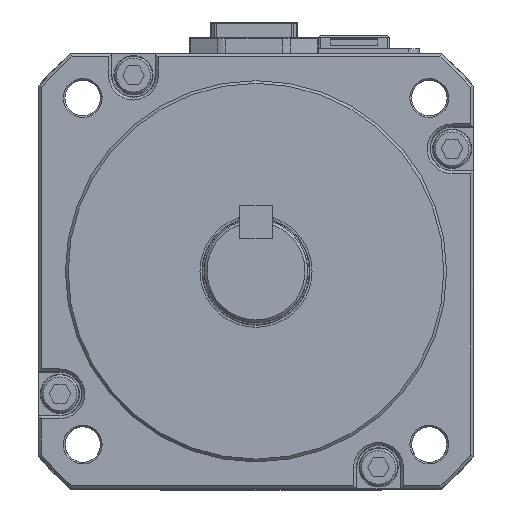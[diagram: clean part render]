
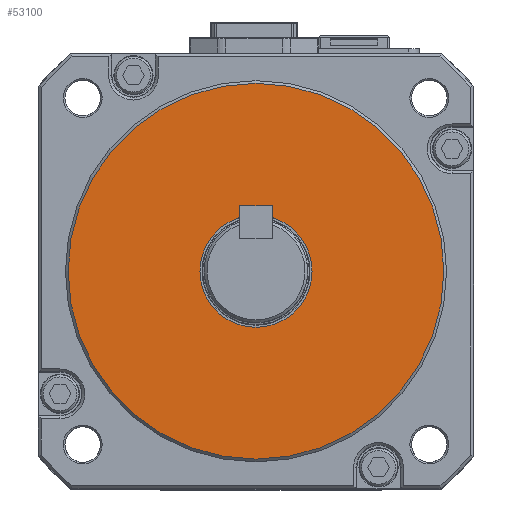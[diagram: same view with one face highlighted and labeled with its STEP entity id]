
A CAD part, top view. The second image highlights one B-rep face of the part: STEP entity #53100.
In plain terms, the highlighted planar face has unit normal (0, 0, 1).
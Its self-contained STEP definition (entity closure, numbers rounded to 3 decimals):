
#1061 = CIRCLE ( 'NONE', #4185, 10.3 ) ;
#4185 = AXIS2_PLACEMENT_3D ( 'NONE', #19811, #39665, #8858 ) ;
#8847 = FACE_OUTER_BOUND ( 'NONE', #34688, .T. ) ;
#8858 = DIRECTION ( 'NONE',  ( 1., 0., 0. ) ) ;
#11042 = ORIENTED_EDGE ( 'NONE', *, *, #53074, .T. ) ;
#13329 = FACE_BOUND ( 'NONE', #14321, .T. ) ;
#13960 = CARTESIAN_POINT ( 'NONE',  ( 0., 0., 13. ) ) ;
#14144 = CARTESIAN_POINT ( 'NONE',  ( 34.5, 0., 13. ) ) ;
#14321 = EDGE_LOOP ( 'NONE', ( #15122 ) ) ;
#15122 = ORIENTED_EDGE ( 'NONE', *, *, #36835, .F. ) ;
#19811 = CARTESIAN_POINT ( 'NONE',  ( 0., 0., 13. ) ) ;
#26654 = AXIS2_PLACEMENT_3D ( 'NONE', #13960, #38048, #28289 ) ;
#28289 = DIRECTION ( 'NONE',  ( 1., 0., 0. ) ) ;
#34688 = EDGE_LOOP ( 'NONE', ( #11042 ) ) ;
#34931 = AXIS2_PLACEMENT_3D ( 'NONE', #46526, #47782, #41646 ) ;
#36835 = EDGE_CURVE ( 'NONE', #60319, #60319, #1061, .T. ) ;
#38048 = DIRECTION ( 'NONE',  ( 0., 0., 1. ) ) ;
#38060 = CIRCLE ( 'NONE', #34931, 34.5 ) ;
#39665 = DIRECTION ( 'NONE',  ( 0., 0., 1. ) ) ;
#41646 = DIRECTION ( 'NONE',  ( 1., 0., 0. ) ) ;
#44186 = PLANE ( 'NONE',  #26654 ) ;
#46526 = CARTESIAN_POINT ( 'NONE',  ( 0., 0., 13. ) ) ;
#47782 = DIRECTION ( 'NONE',  ( 0., 0., 1. ) ) ;
#49540 = VERTEX_POINT ( 'NONE', #14144 ) ;
#53074 = EDGE_CURVE ( 'NONE', #49540, #49540, #38060, .T. ) ;
#53100 = ADVANCED_FACE ( 'NONE', ( #13329, #8847 ), #44186, .T. ) ;
#55443 = CARTESIAN_POINT ( 'NONE',  ( 10.3, 0., 13. ) ) ;
#60319 = VERTEX_POINT ( 'NONE', #55443 ) ;
